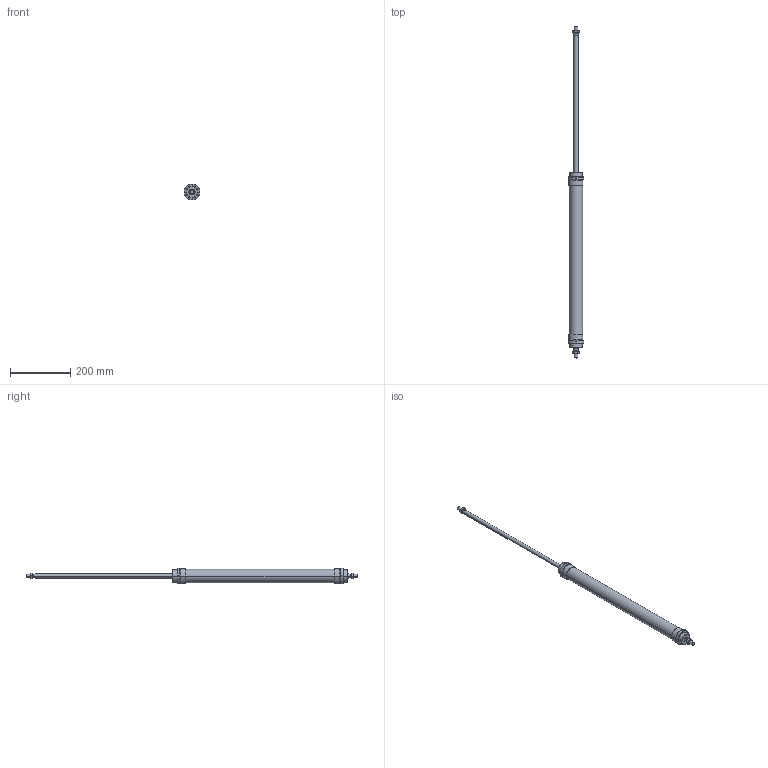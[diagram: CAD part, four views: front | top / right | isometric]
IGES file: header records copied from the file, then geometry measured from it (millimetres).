
Global section: file name: No Iges File Name specified; native system: AutoDesk Inventor R6.0; preprocessor: AutoDesk Inventor Iges Exporter R6.0; author: No Author specified; organization: No Organization specified; date: 20030403.072918; units: millimetre
Bounding box: 51.76 x 1099 x 51.76 mm (x, y, z)
Volume: 971066 mm3; surface area: 169097.1 mm2
Topology: 6 solids, 6 shells, 182 faces, 424 edges, 264 vertices
Faces by surface type: plane 66, cone 52, bspline 30, cylinder 28, revolution 6
